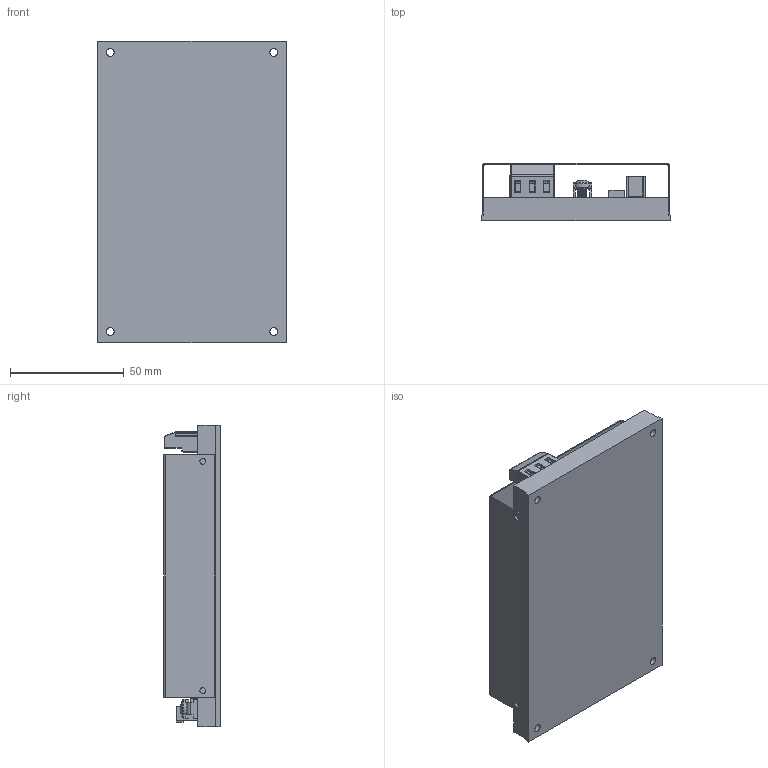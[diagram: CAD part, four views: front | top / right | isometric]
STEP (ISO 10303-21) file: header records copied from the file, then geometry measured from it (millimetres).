
FILE_DESCRIPTION(/* description */ (''),/* implementation_level */ '2;1');
FILE_NAME(/* name */ '',/* time_stamp */ '',/* author */ (''),/* organization */ (''),/* preprocessor_version */ '',/* originating_system */ '',/* authorisation */ '');
FILE_SCHEMA (('AUTOMOTIVE_DESIGN { 1 0 10303 214 3 1 1 }'));
Length unit declared in the file: inch
Products named in the file (1): JETA300-LP_full
Bounding box: 83 x 25 x 133 mm (x, y, z)
Volume: 112448.6 mm3; surface area: 54340.8 mm2
Topology: 2 solids, 7 shells, 625 faces, 1584 edges, 980 vertices
Faces by surface type: plane 313, cylinder 156, cone 125, torus 23, sphere 6, bspline 2
Full cylindrical faces by diameter (mm): 0.85 x2, 1.7 x42, 2.5 x4, 3.4 x7, 3.8 x1, 4 x15, 8 x2
Entity records: 18458 total; most frequent: CARTESIAN_POINT 3790, DIRECTION 3013, ORIENTED_EDGE 2614, EDGE_CURVE 1304, AXIS2_PLACEMENT_3D 1112, VERTEX_POINT 899, EDGE_LOOP 858, LINE 789
